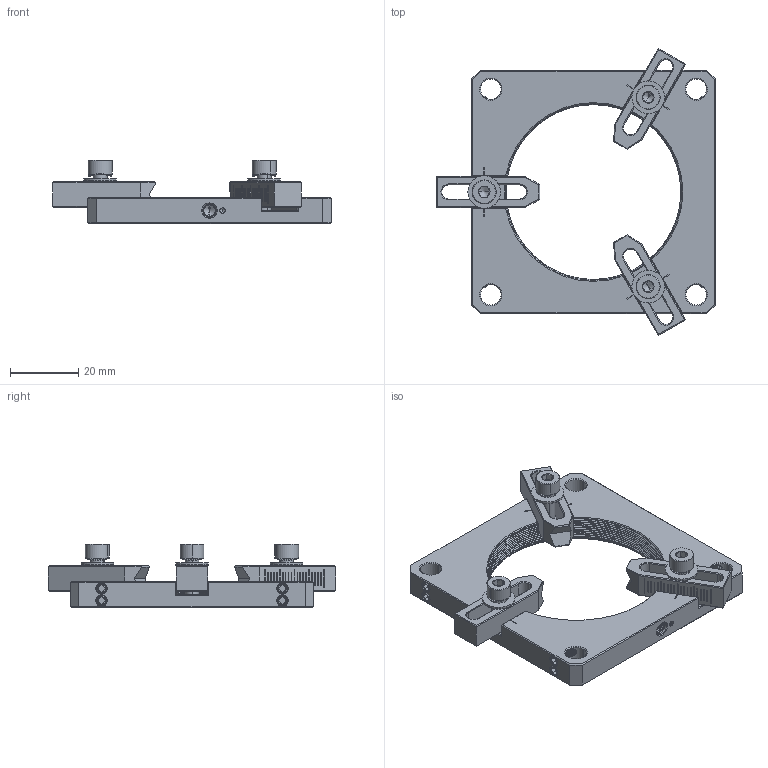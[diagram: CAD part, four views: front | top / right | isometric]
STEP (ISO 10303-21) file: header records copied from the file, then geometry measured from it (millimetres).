
FILE_DESCRIPTION((''),'2;1');
FILE_NAME('CRD-S2X_ASM','2021-01-28T',('Administrator'),(''),'CREO PARAMETRIC BY PTC INC, 2015290','CREO PARAMETRIC BY PTC INC, 2015290','');
FILE_SCHEMA(('CONFIG_CONTROL_DESIGN'));
Products named in the file (7): CRD-S2X_A1; CRD-S2X_A2; M4X12_HM; SPACER_9X0_7; SPACER_S6X0_2; M3X4_HS; CRD-S2X_ASM
Assembly tree (21 placements, depth 2):
  CRD-S2X_ASM
    CRD-S2X_A1
    CRD-S2X_A2  x3
    M4X12_HM  x3
    SPACER_9X0_7  x3
    SPACER_S6X0_2  x3
    M3X4_HS  x8
Bounding box: 81.34 x 83.86 x 18.51 mm (x, y, z)
Volume: 24259.2 mm3; surface area: 16778.5 mm2
Topology: 21 solids, 21 shells, 1537 faces, 3887 edges, 2451 vertices
Faces by surface type: plane 652, cylinder 366, bspline 358, cone 143, torus 12, extrusion 6
Entity records: 89491 total; most frequent: CARTESIAN_POINT 66730, ORIENTED_EDGE 5622, DIRECTION 3036, EDGE_CURVE 2811, VERTEX_POINT 1793, B_SPLINE_CURVE_WITH_KNOTS 1457, VECTOR 1140, LINE 1138
